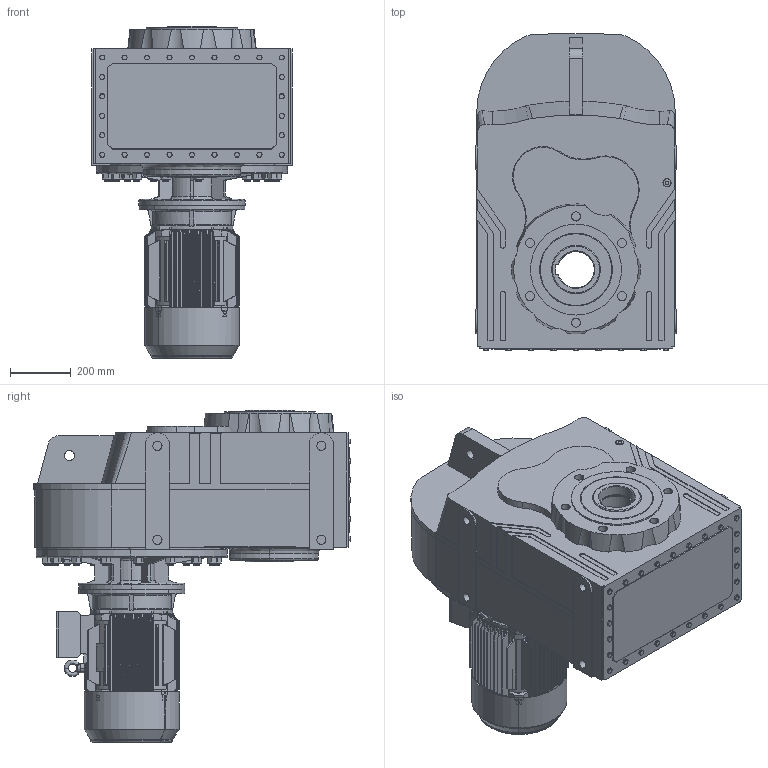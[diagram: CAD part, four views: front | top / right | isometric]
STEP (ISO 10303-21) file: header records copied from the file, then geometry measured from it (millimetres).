
FILE_DESCRIPTION (( 'STEP AP203' ), '1' );
FILE_NAME ('DV972-DV973-M3-160M.STEP', '2019-07-23T13:11:22', ( '' ), ( '' ), 'SwSTEP 2.0', 'SolidWorks 2012', '' );
FILE_SCHEMA (( 'CONFIG_CONTROL_DESIGN' ));
Products named in the file (15): DV972-DV973-M3-160M; M3-160M-FF-B5; Y2-160_shaft; +ª+§ªiY2-160ñ»ª­_-++ñ; Y2-160M+À+¿(B5)_-++ñ; +¦i-MN2-160_-++ñ; Y2-160ñ»ª­+¿_-++ñ; Y2-160-2ª¥--®+_-++ñ; Y2-160-180ñ»ª­®+_-++ñ; Y2-160-4Ý¾6Ý¾8-ª+---®+_-++ñ; Eyebolts GB_GB_FASTENER_SCREWS_FRS M12; DN_97_3_0_A-B16_B5_ML24A_0_0_0_0_0_0_0_0_0_0_0_0_M1; ML24A_Varsayìlan; 93160B5_Varsayìlan; D973_Varsayìlan
Assembly tree (14 placements, depth 4):
  DV972-DV973-M3-160M
    DN_97_3_0_A-B16_B5_ML24A_0_0_0_0_0_0_0_0_0_0_0_0_M1
      D973_Varsayìlan
      93160B5_Varsayìlan
      ML24A_Varsayìlan
    M3-160M-FF-B5
      Eyebolts GB_GB_FASTENER_SCREWS_FRS M12
      Y2-160-4Ý¾6Ý¾8-ª+---®+_-++ñ
      +¦i-MN2-160_-++ñ
      Y2-160-2ª¥--®+_-++ñ
      +ª+§ªiY2-160ñ»ª­_-++ñ
        Y2-160-180ñ»ª­®+_-++ñ
        Y2-160ñ»ª­+¿_-++ñ
      Y2-160M+À+¿(B5)_-++ñ
      Y2-160_shaft
Bounding box: 660 x 1043.11 x 1094 mm (x, y, z)
Volume: 247732110.4 mm3; surface area: 6848398 mm2
Topology: 11 solids, 12 shells, 2842 faces, 7103 edges, 4412 vertices
Faces by surface type: plane 1046, cylinder 853, cone 666, bspline 170, torus 67, sphere 40
Entity records: 126262 total; most frequent: CARTESIAN_POINT 60452, ORIENTED_EDGE 14110, DIRECTION 12217, EDGE_CURVE 7055, AXIS2_PLACEMENT_3D 4683, VERTEX_POINT 4397, EDGE_LOOP 3126, LINE 2851
